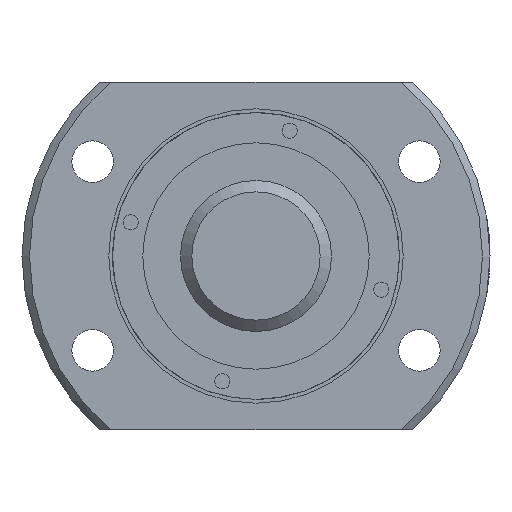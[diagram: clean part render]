
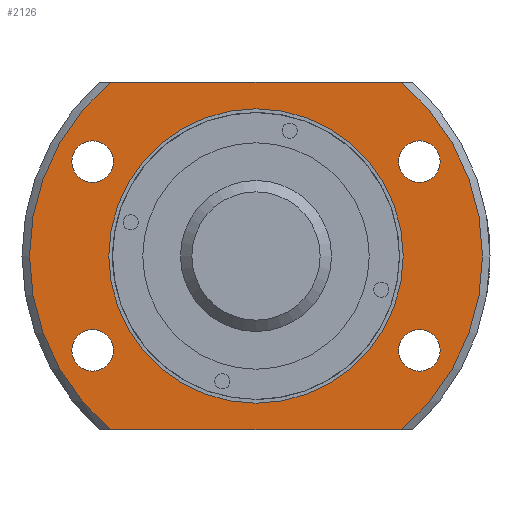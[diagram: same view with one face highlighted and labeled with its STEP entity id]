
A CAD part, left-side view. The second image highlights one B-rep face of the part: STEP entity #2126.
In plain terms, the highlighted planar face has unit normal (-1, 0, 0).
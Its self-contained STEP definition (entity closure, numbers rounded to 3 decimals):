
#81=LINE('',#3591,#201);
#82=LINE('',#3592,#202);
#201=VECTOR('',#2727,1000.);
#202=VECTOR('',#2728,1000.);
#481=ORIENTED_EDGE('',*,*,#1020,.T.);
#482=ORIENTED_EDGE('',*,*,#1021,.F.);
#483=ORIENTED_EDGE('',*,*,#999,.F.);
#484=ORIENTED_EDGE('',*,*,#1022,.F.);
#485=ORIENTED_EDGE('',*,*,#1018,.F.);
#486=ORIENTED_EDGE('',*,*,#1023,.T.);
#487=ORIENTED_EDGE('',*,*,#1024,.T.);
#488=ORIENTED_EDGE('',*,*,#1025,.T.);
#489=ORIENTED_EDGE('',*,*,#1026,.T.);
#999=EDGE_CURVE('',#1272,#1271,#1432,.T.);
#1018=EDGE_CURVE('',#1287,#1288,#1446,.T.);
#1020=EDGE_CURVE('',#1289,#1289,#1447,.T.);
#1021=EDGE_CURVE('',#1271,#1287,#81,.T.);
#1022=EDGE_CURVE('',#1288,#1272,#82,.T.);
#1023=EDGE_CURVE('',#1290,#1290,#1448,.T.);
#1024=EDGE_CURVE('',#1291,#1291,#1449,.T.);
#1025=EDGE_CURVE('',#1292,#1292,#1450,.T.);
#1026=EDGE_CURVE('',#1293,#1293,#1451,.T.);
#1271=VERTEX_POINT('',#3524);
#1272=VERTEX_POINT('',#3529);
#1287=VERTEX_POINT('',#3581);
#1288=VERTEX_POINT('',#3583);
#1289=VERTEX_POINT('',#3590);
#1290=VERTEX_POINT('',#3594);
#1291=VERTEX_POINT('',#3596);
#1292=VERTEX_POINT('',#3598);
#1293=VERTEX_POINT('',#3600);
#1432=CIRCLE('',#2324,30.);
#1446=CIRCLE('',#2347,30.);
#1447=CIRCLE('',#2349,19.5);
#1448=CIRCLE('',#2350,2.75);
#1449=CIRCLE('',#2351,2.75);
#1450=CIRCLE('',#2352,2.75);
#1451=CIRCLE('',#2353,2.75);
#1579=EDGE_LOOP('',(#481));
#1580=EDGE_LOOP('',(#482,#483,#484,#485));
#1581=EDGE_LOOP('',(#486));
#1582=EDGE_LOOP('',(#487));
#1583=EDGE_LOOP('',(#488));
#1584=EDGE_LOOP('',(#489));
#1813=FACE_BOUND('',#1579,.T.);
#1814=FACE_BOUND('',#1580,.T.);
#1815=FACE_BOUND('',#1581,.T.);
#1816=FACE_BOUND('',#1582,.T.);
#1817=FACE_BOUND('',#1583,.T.);
#1818=FACE_BOUND('',#1584,.T.);
#2013=PLANE('',#2348);
#2126=ADVANCED_FACE('',(#1813,#1814,#1815,#1816,#1817,#1818),#2013,.T.);
#2324=AXIS2_PLACEMENT_3D('',#3530,#2673,#2674);
#2347=AXIS2_PLACEMENT_3D('',#3582,#2721,#2722);
#2348=AXIS2_PLACEMENT_3D('',#3588,#2723,#2724);
#2349=AXIS2_PLACEMENT_3D('',#3589,#2725,#2726);
#2350=AXIS2_PLACEMENT_3D('',#3593,#2729,#2730);
#2351=AXIS2_PLACEMENT_3D('',#3595,#2731,#2732);
#2352=AXIS2_PLACEMENT_3D('',#3597,#2733,#2734);
#2353=AXIS2_PLACEMENT_3D('',#3599,#2735,#2736);
#2673=DIRECTION('',(1.,0.,0.));
#2674=DIRECTION('',(0.,0.,-1.));
#2721=DIRECTION('',(1.,0.,0.));
#2722=DIRECTION('',(0.,0.,-1.));
#2723=DIRECTION('',(-1.,0.,0.));
#2724=DIRECTION('',(0.,0.,1.));
#2725=DIRECTION('',(1.,0.,0.));
#2726=DIRECTION('',(0.,0.,-1.));
#2727=DIRECTION('',(0.,1.,0.));
#2728=DIRECTION('',(0.,-1.,0.));
#2729=DIRECTION('',(1.,0.,0.));
#2730=DIRECTION('',(0.,0.,-1.));
#2731=DIRECTION('',(1.,0.,0.));
#2732=DIRECTION('',(0.,0.,-1.));
#2733=DIRECTION('',(1.,0.,0.));
#2734=DIRECTION('',(0.,0.,-1.));
#2735=DIRECTION('',(1.,0.,0.));
#2736=DIRECTION('',(0.,0.,-1.));
#3524=CARTESIAN_POINT('',(7.5,-19.261,-23.));
#3529=CARTESIAN_POINT('',(7.5,-19.261,23.));
#3530=CARTESIAN_POINT('',(7.5,0.,0.));
#3581=CARTESIAN_POINT('',(7.5,19.261,-23.));
#3582=CARTESIAN_POINT('',(7.5,0.,0.));
#3583=CARTESIAN_POINT('',(7.5,19.261,23.));
#3588=CARTESIAN_POINT('',(7.5,30.,0.));
#3589=CARTESIAN_POINT('',(7.5,0.,0.));
#3590=CARTESIAN_POINT('',(7.5,0.,-19.5));
#3591=CARTESIAN_POINT('',(7.5,30.,-23.));
#3592=CARTESIAN_POINT('',(7.5,30.,23.));
#3593=CARTESIAN_POINT('',(7.5,21.651,-12.5));
#3594=CARTESIAN_POINT('',(7.5,21.651,-15.25));
#3595=CARTESIAN_POINT('',(7.5,-21.651,12.5));
#3596=CARTESIAN_POINT('',(7.5,-21.651,9.75));
#3597=CARTESIAN_POINT('',(7.5,-21.651,-12.5));
#3598=CARTESIAN_POINT('',(7.5,-21.651,-15.25));
#3599=CARTESIAN_POINT('',(7.5,21.651,12.5));
#3600=CARTESIAN_POINT('',(7.5,21.651,9.75));
